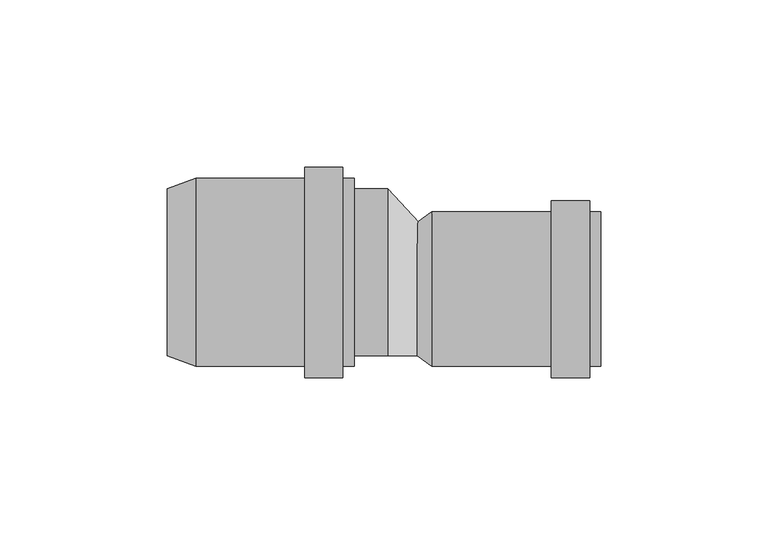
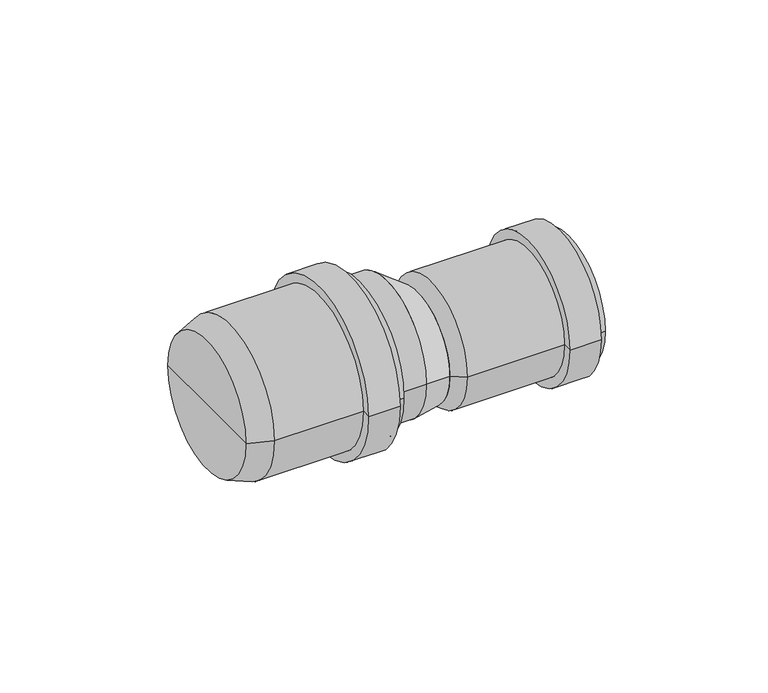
"""IFC4 building model written with IfcOpenShell, lengths in millimetres: pipe fitting geometry, pf_HTR_red-nes-dlouha : pf_HTR_red-nes-dlouha."""

import ifcopenshell
import ifcopenshell.guid

model = None  # the IFC model being written
_history = None  # IfcOwnerHistory: only IFC2X3 demands one
_inside = {}  # id of a spatial element -> (the spatial element, [elements in it])
_under = {}  # id of a project, library or spatial element -> (it, [spatial elements below it])
_declared = {}  # id of a project -> (the project, [libraries it declares])
_typed = {}  # id of a type object -> (the type object, [elements of that type])
_made_of = {}  # id of a material, layer set ... -> (it, [elements and type objects made of it])


def new_model(schema):
    """Start an empty IFC model of exactly this schema.

    Asked for "IFC4X3", IfcOpenShell would pick the latest addendum, in which some entities
    have other attributes; the version numbers below select the first issue.
    IFC2X3 requires an IfcOwnerHistory on every rooted entity: one is made here for all.
    """
    global model, _history
    if schema == "IFC4X3":
        model = ifcopenshell.file(schema_version=(4, 3, 0, 0))
    else:
        model = ifcopenshell.file(schema=schema)
    _inside.clear()
    _under.clear()
    _declared.clear()
    _typed.clear()
    _made_of.clear()
    _history = None
    if model.schema == "IFC2X3":
        org = make("IfcOrganization", Name="unknown")
        user = make(
            "IfcPersonAndOrganization",
            ThePerson=make("IfcPerson", FamilyName="unknown"),
            TheOrganization=org,
        )
        app = make(
            "IfcApplication",
            ApplicationDeveloper=org,
            Version="unknown",
            ApplicationFullName="unknown",
            ApplicationIdentifier="unknown",
        )
        _history = make(
            "IfcOwnerHistory",
            OwningUser=user,
            OwningApplication=app,
            ChangeAction="ADDED",
            CreationDate=0,
        )
    return model


def make(cls, **values):
    """One entity of the class cls with the attributes given. An attribute that is None is left unset."""
    return model.create_entity(
        cls, **{name: value for name, value in values.items() if value is not None}
    )


def rooted(cls, **values):
    """An entity with a GlobalId (a new one), such as an element, a storey or a relation."""
    return make(cls, GlobalId=ifcopenshell.guid.new(), OwnerHistory=_history, **values)


def si_unit(unit_type, name, prefix=None):
    """IfcSIUnit, for example si_unit("LENGTHUNIT", "METRE", prefix="MILLI")."""
    return make("IfcSIUnit", UnitType=unit_type, Prefix=prefix, Name=name)


def assignment(units):
    """IfcUnitAssignment: the units of a project."""
    return None if units is None else make("IfcUnitAssignment", Units=units)


def point(xyz):
    """IfcCartesianPoint."""
    return None if xyz is None else make("IfcCartesianPoint", Coordinates=xyz)


def direction(xyz):
    """IfcDirection."""
    return None if xyz is None else make("IfcDirection", DirectionRatios=xyz)


def frame(location, z_axis=None, x_axis=None):
    """IfcAxis2Placement3D, a coordinate frame: its origin and axes. An axis left out is left unset."""
    return make(
        "IfcAxis2Placement3D",
        Location=point(location),
        Axis=direction(z_axis),
        RefDirection=direction(x_axis),
    )


def frame_2d(location, x_axis=None):
    """IfcAxis2Placement2D, a coordinate frame in the plane: its origin and x axis."""
    return make(
        "IfcAxis2Placement2D", Location=point(location), RefDirection=direction(x_axis)
    )


def origin():
    """The frame at (0, 0, 0) with its axes left unset."""
    return frame((0.0, 0.0, 0.0))


def origin_2d():
    """The frame at (0, 0) in the plane with its x axis left unset."""
    return frame_2d((0.0, 0.0))


def place(relative_to, where):
    """IfcLocalPlacement: puts the frame where relative to a parent placement (None: the world)."""
    return make(
        "IfcLocalPlacement", PlacementRelTo=relative_to, RelativePlacement=where
    )


def context(
    kind, dimensions, precision=None, world=None, true_north=None, identifier=None
):
    """IfcGeometricRepresentationContext, for example the 3D "Model" context."""
    return make(
        "IfcGeometricRepresentationContext",
        ContextIdentifier=identifier,
        ContextType=kind,
        CoordinateSpaceDimension=dimensions,
        Precision=precision,
        WorldCoordinateSystem=world,
        TrueNorth=true_north,
    )


def project(units=None, contexts=None):
    """IfcProject with its units and contexts."""
    return rooted(
        "IfcProject",
        Name="project",
        RepresentationContexts=contexts,
        UnitsInContext=assignment(units),
    )


def spatial(cls, under=None, at=None, **own):
    """A site, building, storey or space (cls), placed at a placement, below another one or the project."""
    s = rooted(cls, ObjectPlacement=at, **own)
    if under is not None:
        _under.setdefault(under.id(), (under, []))[1].append(s)
    return s


def polyline(points):
    """IfcPolyline through the points."""
    return make("IfcPolyline", Points=[point(p) for p in points])


def circle_curve(where, radius):
    """IfcCircle in the frame where."""
    return make("IfcCircle", Position=where, Radius=radius)


def trimmed(basis, trim1, trim2, sense, master):
    """IfcTrimmedCurve: the piece of a basis curve between two trims."""
    return make(
        "IfcTrimmedCurve",
        BasisCurve=basis,
        Trim1=trim1,
        Trim2=trim2,
        SenseAgreement=sense,
        MasterRepresentation=master,
    )


def segment(curve, same_sense, transition):
    """IfcCompositeCurveSegment."""
    return make(
        "IfcCompositeCurveSegment",
        Transition=transition,
        SameSense=same_sense,
        ParentCurve=curve,
    )


def composite_curve(segments, self_intersect=None):
    """IfcCompositeCurve: segments joined end to end."""
    return make("IfcCompositeCurve", Segments=segments, SelfIntersect=self_intersect)


def outline(outer, holes=None, kind="AREA"):
    """IfcArbitraryClosedProfileDef: a profile drawn as a closed curve; with holes, ...WithVoids."""
    if holes is None:
        return make("IfcArbitraryClosedProfileDef", ProfileType=kind, OuterCurve=outer)
    return make(
        "IfcArbitraryProfileDefWithVoids",
        ProfileType=kind,
        OuterCurve=outer,
        InnerCurves=holes,
    )


def extrude(swept, where, along, depth):
    """IfcExtrudedAreaSolid: the profile swept, set in the frame where, extruded along a direction by depth."""
    return make(
        "IfcExtrudedAreaSolid",
        SweptArea=swept,
        Position=where,
        ExtrudedDirection=direction(along),
        Depth=depth,
    )


def shape(context_of_items, identifier, shape_type, items):
    """IfcShapeRepresentation: the items that make up one representation, for example the "Body"."""
    return make(
        "IfcShapeRepresentation",
        ContextOfItems=context_of_items,
        RepresentationIdentifier=identifier,
        RepresentationType=shape_type,
        Items=items,
    )


def source(mapping_origin, context_of_items, identifier, shape_type, items):
    """IfcRepresentationMap: a shape defined once, which mapped items show again and again."""
    return make(
        "IfcRepresentationMap",
        MappingOrigin=mapping_origin,
        MappedRepresentation=shape(context_of_items, identifier, shape_type, items),
    )


def transform(
    local_origin,
    x_axis=None,
    y_axis=None,
    z_axis=None,
    scale=None,
    scale2=None,
    scale3=None,
    uniform=True,
):
    """IfcCartesianTransformationOperator3D, or its non-uniform kind. x_axis, y_axis, z_axis: its Axis1, 2, 3."""
    if uniform:
        return make(
            "IfcCartesianTransformationOperator3D",
            Axis1=direction(x_axis),
            Axis2=direction(y_axis),
            LocalOrigin=point(local_origin),
            Scale=scale,
            Axis3=direction(z_axis),
        )
    return make(
        "IfcCartesianTransformationOperator3DnonUniform",
        Axis1=direction(x_axis),
        Axis2=direction(y_axis),
        LocalOrigin=point(local_origin),
        Scale=scale,
        Axis3=direction(z_axis),
        Scale2=scale2,
        Scale3=scale3,
    )


def mapped(mapping_source, mapping_target):
    """IfcMappedItem: shows the shape of a source again, moved by a transform."""
    return make(
        "IfcMappedItem", MappingSource=mapping_source, MappingTarget=mapping_target
    )


def made_of(thing, what):
    """Note that an element or type object is made of a material, layer set ...; save() writes the relation."""
    if what is not None:
        _made_of.setdefault(what.id(), (what, []))[1].append(thing)
    return thing


def element(
    cls,
    number,
    at=None,
    inside=None,
    cuts=None,
    type_object=None,
    material=None,
    context=None,
    identifier="Body",
    shape_type=None,
    held_by="IfcProductDefinitionShape",
    body=None,
    shapes=None,
    **own,
):
    """One element of the class cls, such as IfcWall. Its Tag is "e" and its number.

    at: its placement. inside: the storey or other place that contains it. cuts: it is an
    opening in that element (IfcRelVoidsElement). A single representation is given by context,
    identifier, shape_type and body (its items); several are given by shapes. held_by: the class
    of the entity that holds the representations. save() writes the other relations.
    """
    e = rooted(cls, Tag="e%d" % number, ObjectPlacement=at, **own)
    if body is not None:
        shapes = [shape(context, identifier, shape_type, body)]
    if shapes is not None:
        e.Representation = make(held_by, Representations=shapes)
    if inside is not None:
        _inside.setdefault(inside.id(), (inside, []))[1].append(e)
    if cuts is not None:
        rooted(
            "IfcRelVoidsElement", RelatingBuildingElement=cuts, RelatedOpeningElement=e
        )
    if type_object is not None:
        _typed.setdefault(type_object.id(), (type_object, []))[1].append(e)
    return made_of(e, material)


def aggregate(whole, parts):
    """IfcRelAggregates: a whole, such as a stair, and the parts it consists of."""
    return rooted("IfcRelAggregates", RelatingObject=whole, RelatedObjects=parts)


def save(model, path):
    """Write the relations noted so far, then the file.

    IfcRelAggregates (storeys below a building ...), IfcRelContainedInSpatialStructure (elements
    in a storey), IfcRelDefinesByType, IfcRelAssociatesMaterial and IfcRelDeclares: one each for
    every whole, place, type object, material and project.
    """
    for whole, parts in _under.values():
        aggregate(whole, parts)
    for where, things in _inside.values():
        rooted(
            "IfcRelContainedInSpatialStructure",
            RelatedElements=things,
            RelatingStructure=where,
        )
    for kind, things in _typed.values():
        rooted("IfcRelDefinesByType", RelatedObjects=things, RelatingType=kind)
    for what, things in _made_of.values():
        rooted("IfcRelAssociatesMaterial", RelatedObjects=things, RelatingMaterial=what)
    for by, libraries in _declared.values():
        rooted("IfcRelDeclares", RelatingContext=by, RelatedDefinitions=libraries)
    model.write(path)


def plane_surface(at):
    """IfcPlane: the flat surface through the origin of the frame at, square to its z axis."""
    return make("IfcPlane", Position=at)


def cylinder_surface(at, radius):
    """IfcCylindricalSurface: all points at the distance radius from the z axis of the frame at."""
    return make("IfcCylindricalSurface", Position=at, Radius=radius)


def revolved_surface(curve, axis_point, axis_direction):
    """IfcSurfaceOfRevolution: the curve turned about the line through axis_point along axis_direction."""
    return make(
        "IfcSurfaceOfRevolution",
        SweptCurve=make("IfcArbitraryOpenProfileDef", ProfileType="CURVE", Curve=curve),
        AxisPosition=make("IfcAxis1Placement", Location=point(axis_point), Axis=direction(axis_direction)),
    )


def spline_surface(u_degree, v_degree, points, u_multiplicities, v_multiplicities, u_knots, v_knots, weights=None):
    """IfcBSplineSurfaceWithKnots; with weights, IfcRationalBSplineSurfaceWithKnots. points: one row for each step in u."""
    own = dict(
        UDegree=u_degree,
        VDegree=v_degree,
        ControlPointsList=[[point(p) for p in row] for row in points],
        SurfaceForm="UNSPECIFIED",
        UClosed=False,
        VClosed=False,
        SelfIntersect=False,
        UMultiplicities=u_multiplicities,
        VMultiplicities=v_multiplicities,
        UKnots=u_knots,
        VKnots=v_knots,
        KnotSpec="UNSPECIFIED",
    )
    if weights is None:
        return make("IfcBSplineSurfaceWithKnots", **own)
    return make("IfcRationalBSplineSurfaceWithKnots", WeightsData=weights, **own)


def advanced_brep(points, edges, surfaces, faces):
    """IfcAdvancedBrep: a solid bounded by faces that lie on surfaces and meet in shared edges.

    An edge is (start, end): straight between two places in points (the first is 0);
    or (start, end, curve); or (start, end, curve, False) where it runs against its curve.
    A face is (place in surfaces, loops), or (place, loops, False) where it looks against
    its surface's normal. A loop lists edges by number (the first is 1), with a minus sign
    where the edge is run from its end to its start. The first loop is the outer one.
    """
    corners = [point(p) for p in points]
    vertices = [make("IfcVertexPoint", VertexGeometry=c) for c in corners]
    made = []
    for start, end, *more in edges:
        made.append(
            make(
                "IfcEdgeCurve",
                EdgeStart=vertices[start],
                EdgeEnd=vertices[end],
                EdgeGeometry=more[0] if more else make("IfcPolyline", Points=[corners[start], corners[end]]),
                SameSense=more[1] if len(more) > 1 else True,
            )
        )
    hull = []
    for where, loops, *sense in faces:
        bounds = []
        for j, loop in enumerate(loops):
            ring = [make("IfcOrientedEdge", EdgeElement=made[abs(k) - 1], Orientation=k > 0) for k in loop]
            bounds.append(
                make(
                    "IfcFaceOuterBound" if j == 0 else "IfcFaceBound",
                    Bound=make("IfcEdgeLoop", EdgeList=ring),
                    Orientation=True,
                )
            )
        hull.append(make("IfcAdvancedFace", Bounds=bounds, FaceSurface=surfaces[where], SameSense=sense[0] if sense else True))
    return make("IfcAdvancedBrep", Outer=make("IfcClosedShell", CfsFaces=hull))


def pipe_fitting_c7929656(model_context):
    return source(origin(), model_context, "Body", "SolidModel", [
        advanced_brep(
        [(-66.0, -25.0, 0.0), (-66.0, 25.0, 0.0), (-57.5, 28.1, 0.0), (-57.5, -28.1, 0.0), (-66.0, 0.0, 0.0), (-10.0, -28.1, 0.0), (-10.0, 28.1, 0.0), (-10.0, 0.0, 0.0), (-13.4, -28.1, 0.0), (-13.4, 28.1, 0.0), (-13.4, -31.5, 0.0), (-13.4, 31.5, 0.0), (-24.8, -31.5, 0.0), (-24.8, 31.5, 0.0), (-24.8, -28.1, 0.0), (-24.8, 28.1, 0.0)],
        [
            (0, 1, circle_curve(frame((-66.0, 0.0, 0.0), z_axis=(1.0, 0.0, 0.0), x_axis=(0.0, 1.0, 0.0)), 25.0)),
            (1, 2),
            (2, 3, circle_curve(frame((-57.5, 0.0, 0.0), z_axis=(-1.0, 0.0, 0.0), x_axis=(0.0, 1.0, 0.0)), 28.1)),
            (3, 0),
            (1, 0, circle_curve(frame((-66.0, 0.0, 0.0), z_axis=(1.0, 0.0, 0.0), x_axis=(0.0, 1.0, 0.0)), 25.0)),
            (3, 2, circle_curve(frame((-57.5, 0.0, 0.0), z_axis=(-1.0, 0.0, 0.0), x_axis=(0.0, 1.0, 0.0)), 28.1)),
            (4, 1),
            (0, 4),
            (5, 6, circle_curve(frame((-10.0, 0.0, 0.0), z_axis=(1.0, 0.0, 0.0), x_axis=(0.0, 1.0, 0.0)), 28.1)),
            (6, 7),
            (7, 5),
            (6, 5, circle_curve(frame((-10.0, 0.0, 0.0), z_axis=(1.0, 0.0, 0.0), x_axis=(0.0, 1.0, 0.0)), 28.1)),
            (8, 9, circle_curve(frame((-13.4, 0.0, 0.0), z_axis=(1.0, 0.0, 0.0), x_axis=(0.0, 1.0, 0.0)), 28.1)),
            (9, 6),
            (5, 8),
            (9, 8, circle_curve(frame((-13.4, 0.0, 0.0), z_axis=(1.0, 0.0, 0.0), x_axis=(0.0, 1.0, 0.0)), 28.1)),
            (10, 11, circle_curve(frame((-13.4, 0.0, 0.0), z_axis=(1.0, 0.0, 0.0), x_axis=(0.0, 1.0, 0.0)), 31.5)),
            (11, 9),
            (8, 10),
            (11, 10, circle_curve(frame((-13.4, 0.0, 0.0), z_axis=(1.0, 0.0, 0.0), x_axis=(0.0, 1.0, 0.0)), 31.5)),
            (12, 13, circle_curve(frame((-24.8, 0.0, 0.0), z_axis=(1.0, 0.0, 0.0), x_axis=(0.0, 1.0, 0.0)), 31.5)),
            (13, 11),
            (10, 12),
            (13, 12, circle_curve(frame((-24.8, 0.0, 0.0), z_axis=(1.0, 0.0, 0.0), x_axis=(0.0, 1.0, 0.0)), 31.5)),
            (14, 15, circle_curve(frame((-24.8, 0.0, 0.0), z_axis=(1.0, 0.0, 0.0), x_axis=(0.0, 1.0, 0.0)), 28.1)),
            (15, 13),
            (12, 14),
            (15, 14, circle_curve(frame((-24.8, 0.0, 0.0), z_axis=(1.0, 0.0, 0.0), x_axis=(0.0, 1.0, 0.0)), 28.1)),
            (2, 15),
            (14, 3),
        ],
        [
            revolved_surface(polyline([(-57.5, 28.1, 0.0), (-66.0, 25.0, 0.0)]), (-66.0, 0.0, 0.0), (-1.0, 0.0, 0.0)),
            plane_surface(frame((-66.0, 0.0, 0.0), z_axis=(-1.0, 0.0, 0.0), x_axis=(0.0, 1.0, 0.0))),
            plane_surface(frame((-10.0, 0.0, 0.0), z_axis=(1.0, 0.0, 0.0), x_axis=(0.0, 1.0, 0.0))),
            cylinder_surface(frame((-66.0, 0.0, 0.0), z_axis=(-1.0, 0.0, 0.0), x_axis=(0.0, 1.0, 0.0)), 28.1),
            plane_surface(frame((-13.4, 0.0, 0.0), z_axis=(1.0, 0.0, 0.0), x_axis=(0.0, 1.0, 0.0))),
            cylinder_surface(frame((-66.0, 0.0, 0.0), z_axis=(-1.0, 0.0, 0.0), x_axis=(0.0, 1.0, 0.0)), 31.5),
            plane_surface(frame((-24.8, 0.0, 0.0), z_axis=(-1.0, 0.0, 0.0), x_axis=(0.0, 1.0, 0.0))),
        ],
        [
            (0, [[1, 2, 3, 4]]),
            (0, [[5, -4, 6, -2]]),
            (1, [[7, -1, 8]]),
            (1, [[-8, -5, -7]]),
            (2, [[9, 10, 11]]),
            (2, [[12, -11, -10]]),
            (3, [[13, 14, -9, 15]]),
            (3, [[16, -15, -12, -14]]),
            (4, [[17, 18, -13, 19]]),
            (4, [[20, -19, -16, -18]]),
            (5, [[21, 22, -17, 23]]),
            (5, [[24, -23, -20, -22]]),
            (6, [[25, 26, -21, 27]]),
            (6, [[28, -27, -24, -26]]),
            (3, [[-3, 29, -25, 30]]),
            (3, [[-6, -30, -28, -29]]),
        ],
    ),
        advanced_brep(
        [(8.8, -25.0, 0.0), (8.8, 15.0, 0.0), (13.2, 18.1, 0.0), (13.2, -28.1, 0.0), (8.8, -5.0, 0.0), (63.8, -28.1, 0.0), (63.8, 18.1, 0.0), (63.8, -5.0, 0.0), (60.4, -28.1, 0.0), (60.4, 18.1, 0.0), (60.4, -31.5, 0.0), (60.4, 21.5, 0.0), (49.0, -31.5, 0.0), (49.0, 21.5, 0.0), (49.0, -28.1, 0.0), (49.0, 18.1, 0.0)],
        [
            (0, 1, circle_curve(frame((8.8, -5.0, 0.0), z_axis=(1.0, 0.0, 0.0), x_axis=(0.0, 1.0, 0.0)), 20.0)),
            (1, 2),
            (2, 3, circle_curve(frame((13.2, -5.0, 0.0), z_axis=(-1.0, 0.0, 0.0), x_axis=(0.0, 1.0, 0.0)), 23.1)),
            (3, 0),
            (1, 0, circle_curve(frame((8.8, -5.0, 0.0), z_axis=(1.0, 0.0, 0.0), x_axis=(0.0, 1.0, 0.0)), 20.0)),
            (3, 2, circle_curve(frame((13.2, -5.0, 0.0), z_axis=(-1.0, 0.0, 0.0), x_axis=(0.0, 1.0, 0.0)), 23.1)),
            (4, 1),
            (0, 4),
            (5, 6, circle_curve(frame((63.8, -5.0, 0.0), z_axis=(1.0, 0.0, 0.0), x_axis=(0.0, 1.0, 0.0)), 23.1)),
            (6, 7),
            (7, 5),
            (6, 5, circle_curve(frame((63.8, -5.0, 0.0), z_axis=(1.0, 0.0, 0.0), x_axis=(0.0, 1.0, 0.0)), 23.1)),
            (8, 9, circle_curve(frame((60.4, -5.0, 0.0), z_axis=(1.0, 0.0, 0.0), x_axis=(0.0, 1.0, 0.0)), 23.1)),
            (9, 6),
            (5, 8),
            (9, 8, circle_curve(frame((60.4, -5.0, 0.0), z_axis=(1.0, 0.0, 0.0), x_axis=(0.0, 1.0, 0.0)), 23.1)),
            (10, 11, circle_curve(frame((60.4, -5.0, 0.0), z_axis=(1.0, 0.0, 0.0), x_axis=(0.0, 1.0, 0.0)), 26.5)),
            (11, 9),
            (8, 10),
            (11, 10, circle_curve(frame((60.4, -5.0, 0.0), z_axis=(1.0, 0.0, 0.0), x_axis=(0.0, 1.0, 0.0)), 26.5)),
            (12, 13, circle_curve(frame((49.0, -5.0, 0.0), z_axis=(1.0, 0.0, 0.0), x_axis=(0.0, 1.0, 0.0)), 26.5)),
            (13, 11),
            (10, 12),
            (13, 12, circle_curve(frame((49.0, -5.0, 0.0), z_axis=(1.0, 0.0, 0.0), x_axis=(0.0, 1.0, 0.0)), 26.5)),
            (14, 15, circle_curve(frame((49.0, -5.0, 0.0), z_axis=(1.0, 0.0, 0.0), x_axis=(0.0, 1.0, 0.0)), 23.1)),
            (15, 13),
            (12, 14),
            (15, 14, circle_curve(frame((49.0, -5.0, 0.0), z_axis=(1.0, 0.0, 0.0), x_axis=(0.0, 1.0, 0.0)), 23.1)),
            (2, 15),
            (14, 3),
        ],
        [
            revolved_surface(polyline([(13.2, 18.1, 0.0), (8.8, 15.0, 0.0)]), (8.8, -5.0, 0.0), (-1.0, 0.0, 0.0)),
            plane_surface(frame((8.8, -5.0, 0.0), z_axis=(-1.0, 0.0, 0.0), x_axis=(0.0, 1.0, 0.0))),
            plane_surface(frame((63.8, -5.0, 0.0), z_axis=(1.0, 0.0, 0.0), x_axis=(0.0, 1.0, 0.0))),
            cylinder_surface(frame((8.8, -5.0, 0.0), z_axis=(-1.0, 0.0, 0.0), x_axis=(0.0, 1.0, 0.0)), 23.1),
            plane_surface(frame((60.4, -5.0, 0.0), z_axis=(1.0, 0.0, 0.0), x_axis=(0.0, 1.0, 0.0))),
            cylinder_surface(frame((8.8, -5.0, 0.0), z_axis=(-1.0, 0.0, 0.0), x_axis=(0.0, 1.0, 0.0)), 26.5),
            plane_surface(frame((49.0, -5.0, 0.0), z_axis=(-1.0, 0.0, 0.0), x_axis=(0.0, 1.0, 0.0))),
        ],
        [
            (0, [[1, 2, 3, 4]]),
            (0, [[5, -4, 6, -2]]),
            (1, [[7, -1, 8]]),
            (1, [[-8, -5, -7]]),
            (2, [[9, 10, 11]]),
            (2, [[12, -11, -10]]),
            (3, [[13, 14, -9, 15]]),
            (3, [[16, -15, -12, -14]]),
            (4, [[17, 18, -13, 19]]),
            (4, [[20, -19, -16, -18]]),
            (5, [[21, 22, -17, 23]]),
            (5, [[24, -23, -20, -22]]),
            (6, [[25, 26, -21, 27]]),
            (6, [[28, -27, -24, -26]]),
            (3, [[-3, 29, -25, 30]]),
            (3, [[-6, -30, -28, -29]]),
        ],
    ),
        extrude(outline(composite_curve([segment(trimmed(circle_curve(origin_2d(), 25.0), [point((-25.0, 0.0))], [point((25.0, 0.0))], False, "CARTESIAN"), True, "CONTINUOUS"), segment(trimmed(circle_curve(origin_2d(), 25.0), [point((25.0, 0.0))], [point((-25.0, 0.0))], False, "CARTESIAN"), True, "CONTINUOUS")], self_intersect=False)), frame((-10.0, 0.0, 0.0), z_axis=(1.0, 0.0, 0.0), x_axis=(0.0, 1.0, 0.0)), (0.0, 0.0, 1.0), 10.0),
        advanced_brep(
        [(9.25, -25.0, 0.0), (9.25, 15.0, 0.0), (0.0, -25.0, 0.0), (0.0, 25.0, 0.0)],
        [
            (0, 1, circle_curve(frame((9.25, -5.0, 0.0), z_axis=(1.0, 0.0, 0.0), x_axis=(0.0, 1.0, 0.0)), 20.0)),
            (1, 0, circle_curve(frame((9.25, -5.0, 0.0), z_axis=(1.0, 0.0, 0.0), x_axis=(0.0, 1.0, 0.0)), 20.0)),
            (2, 3, circle_curve(frame((0.0, 0.0, 0.0), z_axis=(-1.0, 0.0, 0.0), x_axis=(0.0, 1.0, 0.0)), 25.0)),
            (3, 2, circle_curve(frame((0.0, 0.0, 0.0), z_axis=(-1.0, 0.0, 0.0), x_axis=(0.0, 1.0, 0.0)), 25.0)),
            (3, 1),
            (0, 2),
        ],
        [
            plane_surface(frame((9.25, -5.0, 0.0), z_axis=(1.0, 0.0, 0.0), x_axis=(0.0, 0.0, -1.0))),
            plane_surface(frame((0.0, 0.0, 0.0), z_axis=(-1.0, 0.0, 0.0), x_axis=(0.0, 0.0, -1.0))),
            spline_surface(2, 1, [[(0.0, -25.0, 0.0), (9.25, -25.0, 0.0)], [(0.0, -25.0, -25.0), (9.25, -25.0, -20.0)], [(0.0, 0.0, -25.0), (9.25, -5.0, -20.0)], [(0.0, 25.0, -25.0), (9.25, 15.0, -20.0)], [(0.0, 25.0, 0.0), (9.25, 15.0, 0.0)]], [3, 2, 3], [2, 2], [0.0, 1.0, 2.0], [0.0, 1.0], weights=[[1.0, 1.0], [0.7071067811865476, 0.7071067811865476], [1.0, 1.0], [0.7071067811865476, 0.7071067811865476], [1.0, 1.0]]),
            spline_surface(2, 1, [[(0.0, 25.0, 0.0), (9.25, 15.0, 0.0)], [(0.0, 25.0, 25.0), (9.25, 15.0, 20.0)], [(0.0, 0.0, 25.0), (9.25, -5.0, 20.0)], [(0.0, -25.0, 25.0), (9.25, -25.0, 20.0)], [(0.0, -25.0, 0.0), (9.25, -25.0, 0.0)]], [3, 2, 3], [2, 2], [0.0, 1.0, 2.0], [0.0, 1.0], weights=[[1.0, 1.0], [0.7071067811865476, 0.7071067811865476], [1.0, 1.0], [0.7071067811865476, 0.7071067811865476], [1.0, 1.0]]),
        ],
        [
            (0, [[1, 2]]),
            (1, [[3, 4]]),
            (2, [[-4, 5, -1, 6]]),
            (3, [[-3, -6, -2, -5]]),
        ],
    ),
    ])


if __name__ == "__main__":
    model = new_model("IFC4")
    model_context = context("Model", 3, world=origin())
    ifc_project = project(units=[si_unit("LENGTHUNIT", "METRE", prefix="MILLI")], contexts=[model_context])
    site = spatial("IfcSite", under=ifc_project)
    building = spatial("IfcBuilding", under=site)
    placement = place(None, origin())
    pipe_fitting_shape = pipe_fitting_c7929656(model_context)
    element("IfcPipeFitting", 1, ObjectType="pf_HTR_red-nes-dlouha : pf_HTR_red-nes-dlouha", at=placement, inside=building, context=model_context, shape_type="MappedRepresentation", body=[
        mapped(pipe_fitting_shape, transform((0.0, 0.0, 0.0), x_axis=(1.0, 0.0, 0.0), y_axis=(0.0, 1.0, 0.0), z_axis=(0.0, 0.0, 1.0))),
    ])
    save(model, "model.ifc")
